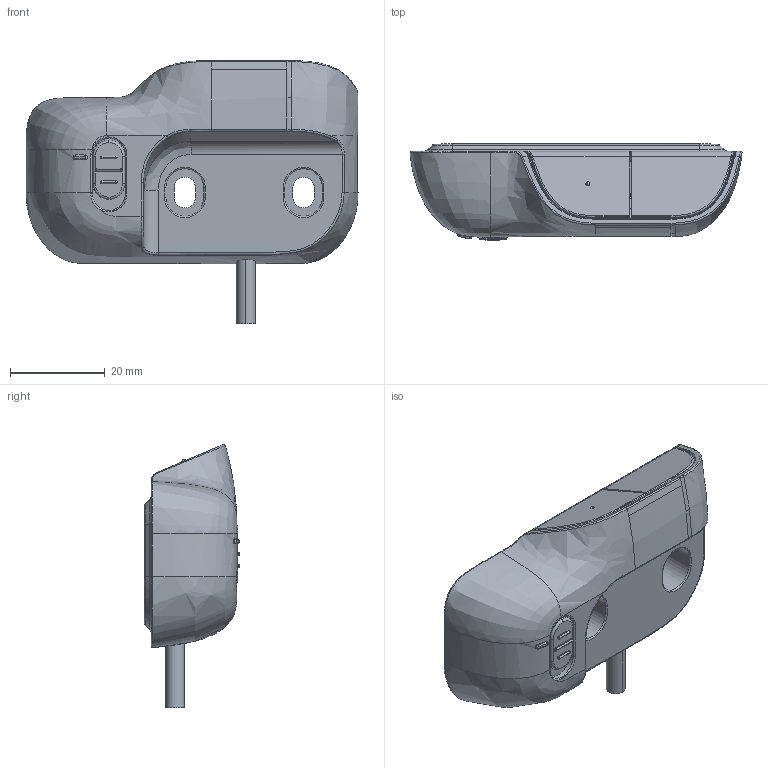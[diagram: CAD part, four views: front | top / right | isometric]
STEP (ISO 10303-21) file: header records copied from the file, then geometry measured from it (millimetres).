
FILE_DESCRIPTION (( 'STEP AP203' ), '1' );
FILE_NAME ('TDH29.STEP', '2022-03-25T06:59:41', ( '' ), ( '' ), 'SwSTEP 2.0', 'SolidWorks 2015', '' );
FILE_SCHEMA (( 'CONFIG_CONTROL_DESIGN' ));
Products named in the file (1): TDH29
Bounding box: 69.92 x 20.2 x 55.4 mm (x, y, z)
Volume: 15222.7 mm3; surface area: 18885.4 mm2
Topology: 4 solids, 4 shells, 1275 faces, 3297 edges, 2027 vertices
Faces by surface type: plane 446, bspline 411, cylinder 302, torus 59, sphere 29, cone 28
Entity records: 85171 total; most frequent: CARTESIAN_POINT 57600, ORIENTED_EDGE 6538, DIRECTION 4587, EDGE_CURVE 3269, VERTEX_POINT 2023, AXIS2_PLACEMENT_3D 1604, VECTOR 1379, LINE 1379
